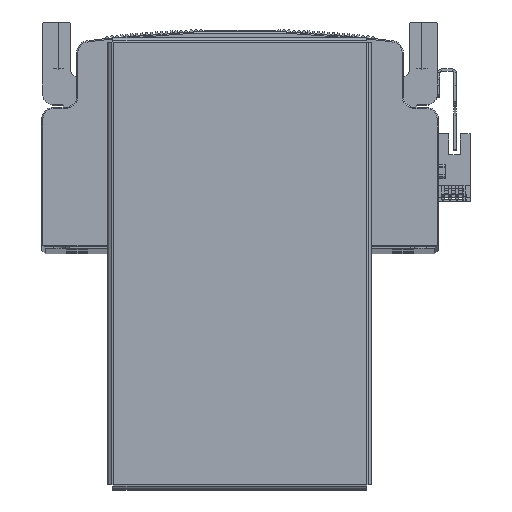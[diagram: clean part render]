
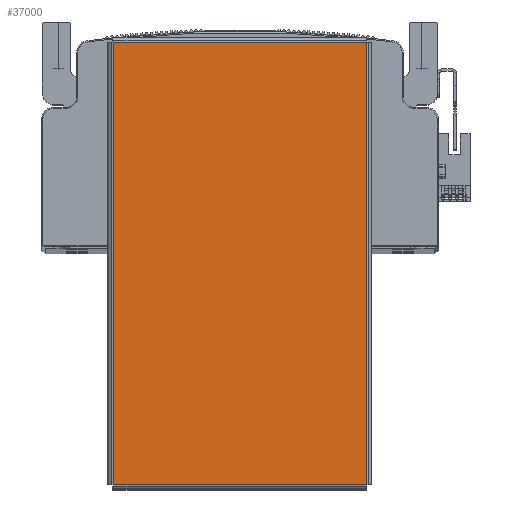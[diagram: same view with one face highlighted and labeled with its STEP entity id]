
A CAD part, top view. The second image highlights one B-rep face of the part: STEP entity #37000.
In plain terms, the highlighted planar face has unit normal (0, 0, 1) as drawn and (0, -1, 0) by its records, which use the part's own axes.
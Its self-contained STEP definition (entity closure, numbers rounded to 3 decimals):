
#3907 = ORIENTED_EDGE ( 'NONE', *, *, #28646, .T. ) ;
#3911 = ORIENTED_EDGE ( 'NONE', *, *, #28648, .T. ) ;
#3921 = ORIENTED_EDGE ( 'NONE', *, *, #28615, .T. ) ;
#3927 = ORIENTED_EDGE ( 'NONE', *, *, #28657, .T. ) ;
#12743 = EDGE_LOOP ( 'NONE', ( #3927, #3907, #3911, #3921 ) ) ;
#12827 = LINE ( 'NONE', #59618, #12851 ) ;
#12838 = VECTOR ( 'NONE', #59676, 1000. ) ;
#12847 = LINE ( 'NONE', #59643, #12838 ) ;
#12848 = LINE ( 'NONE', #59685, #12849 ) ;
#12849 = VECTOR ( 'NONE', #59691, 1000. ) ;
#12851 = VECTOR ( 'NONE', #59627, 1000. ) ;
#12894 = LINE ( 'NONE', #59719, #12944 ) ;
#12944 = VECTOR ( 'NONE', #59713, 1000. ) ;
#16403 = FACE_OUTER_BOUND ( 'NONE', #12743, .T. ) ;
#17988 = DIRECTION ( 'NONE',  ( 0., 1., 0. ) ) ;
#18008 = PLANE ( 'NONE',  #66215 ) ;
#18030 = DIRECTION ( 'NONE',  ( 0., 0., 1. ) ) ;
#18031 = CARTESIAN_POINT ( 'NONE',  ( 0., -1.5, 0. ) ) ;
#28615 = EDGE_CURVE ( 'NONE', #45361, #50326, #12827, .T. ) ;
#28646 = EDGE_CURVE ( 'NONE', #45349, #50330, #12847, .T. ) ;
#28648 = EDGE_CURVE ( 'NONE', #50330, #45361, #12848, .T. ) ;
#28657 = EDGE_CURVE ( 'NONE', #50326, #45349, #12894, .T. ) ;
#37000 = ADVANCED_FACE ( 'NONE', ( #16403 ), #18008, .F. ) ;
#45349 = VERTEX_POINT ( 'NONE', #59141 ) ;
#45361 = VERTEX_POINT ( 'NONE', #59212 ) ;
#46329 = CARTESIAN_POINT ( 'NONE',  ( -94.763, -1.5, -54.363 ) ) ;
#46333 = CARTESIAN_POINT ( 'NONE',  ( 94.763, -1.5, 54.363 ) ) ;
#50326 = VERTEX_POINT ( 'NONE', #46333 ) ;
#50330 = VERTEX_POINT ( 'NONE', #46329 ) ;
#59141 = CARTESIAN_POINT ( 'NONE',  ( -94.763, -1.5, 54.363 ) ) ;
#59212 = CARTESIAN_POINT ( 'NONE',  ( 94.763, -1.5, -54.363 ) ) ;
#59618 = CARTESIAN_POINT ( 'NONE',  ( 94.763, -1.5, -54.393 ) ) ;
#59627 = DIRECTION ( 'NONE',  ( 0., 0., 1. ) ) ;
#59643 = CARTESIAN_POINT ( 'NONE',  ( -94.763, -1.5, 54.393 ) ) ;
#59676 = DIRECTION ( 'NONE',  ( 0., 0., -1. ) ) ;
#59685 = CARTESIAN_POINT ( 'NONE',  ( -94.793, -1.5, -54.363 ) ) ;
#59691 = DIRECTION ( 'NONE',  ( 1., 0., 0. ) ) ;
#59713 = DIRECTION ( 'NONE',  ( -1., 0., 0. ) ) ;
#59719 = CARTESIAN_POINT ( 'NONE',  ( 94.793, -1.5, 54.363 ) ) ;
#66215 = AXIS2_PLACEMENT_3D ( 'NONE', #18031, #17988, #18030 ) ;
